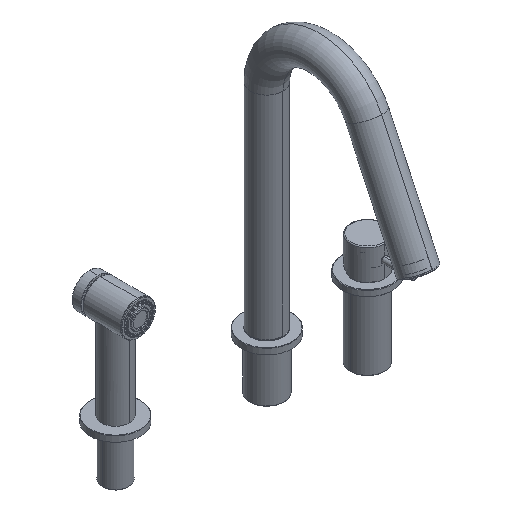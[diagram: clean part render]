
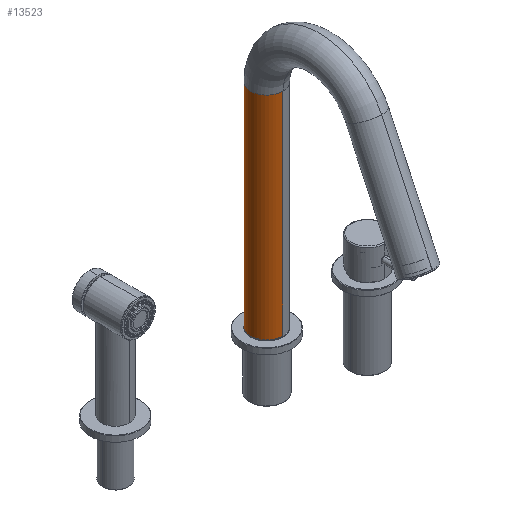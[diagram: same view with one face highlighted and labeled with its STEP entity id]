
A CAD part, isometric view. The second image highlights one B-rep face of the part: STEP entity #13523.
In plain terms, the highlighted cylindrical face has radius 16 mm (diameter 32 mm), a partial arc.
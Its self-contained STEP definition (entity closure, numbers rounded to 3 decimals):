
#519 = LINE ( 'NONE', #15908, #27160 ) ;
#835 = CARTESIAN_POINT ( 'NONE',  ( 15.7, -3.084, 198.547 ) ) ;
#1450 = EDGE_CURVE ( 'NONE', #14837, #21326, #5117, .T. ) ;
#1453 = EDGE_CURVE ( 'NONE', #34414, #38460, #38439, .T. ) ;
#1635 = DIRECTION ( 'NONE',  ( 1., 0., 0. ) ) ;
#2853 = DIRECTION ( 'NONE',  ( 0., 0., -1. ) ) ;
#3245 = DIRECTION ( 'NONE',  ( -1., 0., 0. ) ) ;
#3381 = CARTESIAN_POINT ( 'NONE',  ( 16., 0., 194.25 ) ) ;
#3845 = CARTESIAN_POINT ( 'NONE',  ( 16., 0., 210. ) ) ;
#4129 = CARTESIAN_POINT ( 'NONE',  ( 15.7, -3.083, 196.45 ) ) ;
#4303 = EDGE_CURVE ( 'NONE', #21129, #34414, #43851, .T. ) ;
#4375 = CARTESIAN_POINT ( 'NONE',  ( 15.75, -2.82, 195.87 ) ) ;
#4619 = EDGE_CURVE ( 'NONE', #35085, #38460, #45705, .T. ) ;
#4636 = CARTESIAN_POINT ( 'NONE',  ( 15.666, -3.25, 197.711 ) ) ;
#5117 = CIRCLE ( 'NONE', #35750, 16. ) ;
#5120 = CARTESIAN_POINT ( 'NONE',  ( 15.671, -3.229, 197.927 ) ) ;
#5370 = CARTESIAN_POINT ( 'NONE',  ( 15.979, -0.846, 200.645 ) ) ;
#5846 = CARTESIAN_POINT ( 'NONE',  ( 16., 0., 0. ) ) ;
#6798 = ORIENTED_EDGE ( 'NONE', *, *, #1453, .F. ) ;
#7181 = CARTESIAN_POINT ( 'NONE',  ( -16., 0., 210. ) ) ;
#7417 = CARTESIAN_POINT ( 'NONE',  ( 15.996, -0.427, 194.271 ) ) ;
#7675 = CARTESIAN_POINT ( 'NONE',  ( 15.812, -2.448, 195.352 ) ) ;
#8253 = VECTOR ( 'NONE', #2853, 1000. ) ;
#9381 = CARTESIAN_POINT ( 'NONE',  ( 15.731, -2.921, 198.942 ) ) ;
#9686 = CARTESIAN_POINT ( 'NONE',  ( 0., 0., 210. ) ) ;
#10350 = CARTESIAN_POINT ( 'NONE',  ( 16., 0., 200.75 ) ) ;
#11440 = CARTESIAN_POINT ( 'NONE',  ( 15.878, -1.983, 194.916 ) ) ;
#11897 = DIRECTION ( 'NONE',  ( 1., 0., 0. ) ) ;
#12436 = CARTESIAN_POINT ( 'NONE',  ( 16., -0.212, 200.75 ) ) ;
#12687 = CARTESIAN_POINT ( 'NONE',  ( 15.878, -1.983, 200.083 ) ) ;
#12954 = CARTESIAN_POINT ( 'NONE',  ( 16., 0., 210. ) ) ;
#13523 = ADVANCED_FACE ( 'NONE', ( #30245 ), #37084, .T. ) ;
#14203 = CARTESIAN_POINT ( 'NONE',  ( 16., 0., 210. ) ) ;
#14837 = VERTEX_POINT ( 'NONE', #44335 ) ;
#15632 = CARTESIAN_POINT ( 'NONE',  ( 16., 0., 194.25 ) ) ;
#15908 = CARTESIAN_POINT ( 'NONE',  ( -16., 0., 210. ) ) ;
#16566 = ORIENTED_EDGE ( 'NONE', *, *, #1450, .T. ) ;
#16715 = ORIENTED_EDGE ( 'NONE', *, *, #4619, .T. ) ;
#16955 = CARTESIAN_POINT ( 'NONE',  ( 15.996, -0.428, 200.729 ) ) ;
#17298 = ORIENTED_EDGE ( 'NONE', *, *, #47342, .T. ) ;
#19035 = CARTESIAN_POINT ( 'NONE',  ( 15.936, -1.443, 194.58 ) ) ;
#19226 = DIRECTION ( 'NONE',  ( 0., 0., -1. ) ) ;
#19498 = CARTESIAN_POINT ( 'NONE',  ( 15.688, -3.146, 196.655 ) ) ;
#19756 = CARTESIAN_POINT ( 'NONE',  ( 15.671, -3.229, 197.075 ) ) ;
#19932 = DIRECTION ( 'NONE',  ( 0., 0., -1. ) ) ;
#20011 = CARTESIAN_POINT ( 'NONE',  ( 15.75, -2.819, 199.131 ) ) ;
#20491 = CARTESIAN_POINT ( 'NONE',  ( 15.812, -2.449, 199.647 ) ) ;
#21129 = VERTEX_POINT ( 'NONE', #7181 ) ;
#21326 = VERTEX_POINT ( 'NONE', #5846 ) ;
#22090 = AXIS2_PLACEMENT_3D ( 'NONE', #9686, #35979, #1635 ) ;
#22562 = CARTESIAN_POINT ( 'NONE',  ( 16., -0.215, 194.25 ) ) ;
#26459 = CARTESIAN_POINT ( 'NONE',  ( 0., 0., 210. ) ) ;
#26848 = CARTESIAN_POINT ( 'NONE',  ( 15.856, -2.149, 195.053 ) ) ;
#27160 = VECTOR ( 'NONE', #19932, 1000. ) ;
#28090 = CARTESIAN_POINT ( 'NONE',  ( 15.856, -2.147, 199.949 ) ) ;
#29495 = EDGE_LOOP ( 'NONE', ( #6798, #45251, #17298, #16566, #49069, #16715 ) ) ;
#30245 = FACE_OUTER_BOUND ( 'NONE', #29495, .T. ) ;
#32347 = CARTESIAN_POINT ( 'NONE',  ( 15.79, -2.584, 199.483 ) ) ;
#33275 = DIRECTION ( 'NONE',  ( 0., 0., -1. ) ) ;
#33390 = LINE ( 'NONE', #14203, #8253 ) ;
#34414 = VERTEX_POINT ( 'NONE', #12954 ) ;
#34451 = CARTESIAN_POINT ( 'NONE',  ( 15.918, -1.63, 194.68 ) ) ;
#35085 = VERTEX_POINT ( 'NONE', #15632 ) ;
#35665 = CARTESIAN_POINT ( 'NONE',  ( 16., 0., 200.75 ) ) ;
#35750 = AXIS2_PLACEMENT_3D ( 'NONE', #42474, #37928, #11897 ) ;
#35979 = DIRECTION ( 'NONE',  ( 0., 0., 1. ) ) ;
#36394 = CARTESIAN_POINT ( 'NONE',  ( 15.967, -1.049, 200.584 ) ) ;
#37084 = CYLINDRICAL_SURFACE ( 'NONE', #43555, 16. ) ;
#37928 = DIRECTION ( 'NONE',  ( 0., 0., 1. ) ) ;
#38439 = LINE ( 'NONE', #3845, #44597 ) ;
#38460 = VERTEX_POINT ( 'NONE', #10350 ) ;
#38495 = CARTESIAN_POINT ( 'NONE',  ( 15.791, -2.582, 195.515 ) ) ;
#38728 = CARTESIAN_POINT ( 'NONE',  ( 15.731, -2.921, 196.059 ) ) ;
#38966 = CARTESIAN_POINT ( 'NONE',  ( 15.967, -1.05, 194.417 ) ) ;
#39967 = CARTESIAN_POINT ( 'NONE',  ( 15.666, -3.25, 197.286 ) ) ;
#40213 = CARTESIAN_POINT ( 'NONE',  ( 15.936, -1.441, 200.421 ) ) ;
#42474 = CARTESIAN_POINT ( 'NONE',  ( 0., 0., 0. ) ) ;
#42605 = EDGE_CURVE ( 'NONE', #35085, #21326, #33390, .T. ) ;
#42755 = CARTESIAN_POINT ( 'NONE',  ( 15.979, -0.843, 194.354 ) ) ;
#43555 = AXIS2_PLACEMENT_3D ( 'NONE', #26459, #33275, #3245 ) ;
#43851 = CIRCLE ( 'NONE', #22090, 16. ) ;
#44335 = CARTESIAN_POINT ( 'NONE',  ( -16., 0., 0. ) ) ;
#44597 = VECTOR ( 'NONE', #19226, 1000. ) ;
#45251 = ORIENTED_EDGE ( 'NONE', *, *, #4303, .F. ) ;
#45705 = B_SPLINE_CURVE_WITH_KNOTS ( 'NONE', 3,
 ( #3381, #22562, #7417, #42755, #38966, #19035, #34451, #11440, #26848, #7675, #38495, #4375, #38728, #4129, #19498, #19756, #39967, #4636, #5120, #47515, #835, #9381, #20011, #32347, #20491, #28090, #12687, #48010, #40213, #36394, #5370, #16955, #12436, #35665 ),
 .UNSPECIFIED., .F., .F.,
 ( 4, 2, 2, 2, 2, 2, 2, 2, 2, 2, 2, 2, 2, 2, 2, 2, 4 ),
 ( 0., 0.001, 0.001, 0.002, 0.003, 0.003, 0.004, 0.004, 0.005, 0.006, 0.006, 0.007, 0.008, 0.008, 0.009, 0.01, 0.01 ),
 .UNSPECIFIED. ) ;
#47342 = EDGE_CURVE ( 'NONE', #21129, #14837, #519, .T. ) ;
#47515 = CARTESIAN_POINT ( 'NONE',  ( 15.688, -3.146, 198.345 ) ) ;
#48010 = CARTESIAN_POINT ( 'NONE',  ( 15.918, -1.632, 200.319 ) ) ;
#49069 = ORIENTED_EDGE ( 'NONE', *, *, #42605, .F. ) ;
